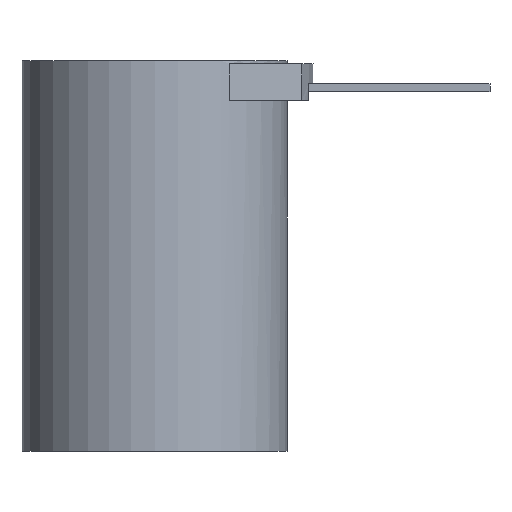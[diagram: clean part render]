
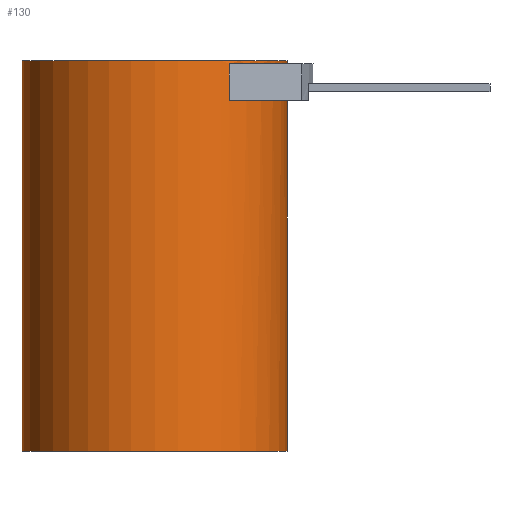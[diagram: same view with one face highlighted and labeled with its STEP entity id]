
A CAD part, front view. The second image highlights one B-rep face of the part: STEP entity #130.
In plain terms, the highlighted cylindrical face has radius 20 mm (diameter 40 mm), a partial arc.
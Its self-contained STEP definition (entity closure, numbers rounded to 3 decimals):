
#113=CYLINDRICAL_SURFACE('',#597,20.);
#130=ADVANCED_FACE('',(#175),#113,.T.);
#175=FACE_OUTER_BOUND('',#198,.T.);
#198=EDGE_LOOP('',(#301,#302,#303,#304,#305,#306,#307,#308,#309,#310));
#224=CIRCLE('',#577,20.);
#225=CIRCLE('',#580,20.);
#230=CIRCLE('',#590,20.);
#233=CIRCLE('',#595,20.);
#234=CIRCLE('',#596,20.);
#301=ORIENTED_EDGE('',*,*,#452,.F.);
#302=ORIENTED_EDGE('',*,*,#457,.F.);
#303=ORIENTED_EDGE('',*,*,#458,.T.);
#304=ORIENTED_EDGE('',*,*,#455,.T.);
#305=ORIENTED_EDGE('',*,*,#459,.F.);
#306=ORIENTED_EDGE('',*,*,#453,.F.);
#307=ORIENTED_EDGE('',*,*,#438,.F.);
#308=ORIENTED_EDGE('',*,*,#435,.F.);
#309=ORIENTED_EDGE('',*,*,#434,.F.);
#310=ORIENTED_EDGE('',*,*,#448,.F.);
#388=VERTEX_POINT('',#794);
#390=VERTEX_POINT('',#798);
#391=VERTEX_POINT('',#802);
#393=VERTEX_POINT('',#808);
#398=VERTEX_POINT('',#825);
#400=VERTEX_POINT('',#833);
#401=VERTEX_POINT('',#837);
#402=VERTEX_POINT('',#839);
#403=VERTEX_POINT('',#841);
#404=VERTEX_POINT('',#843);
#434=EDGE_CURVE('',#390,#388,#224,.T.);
#435=EDGE_CURVE('',#388,#391,#498,.T.);
#438=EDGE_CURVE('',#391,#393,#225,.T.);
#448=EDGE_CURVE('',#398,#390,#508,.T.);
#452=EDGE_CURVE('',#400,#398,#230,.T.);
#453=EDGE_CURVE('',#393,#401,#510,.T.);
#455=EDGE_CURVE('',#403,#402,#511,.T.);
#457=EDGE_CURVE('',#404,#400,#512,.T.);
#458=EDGE_CURVE('',#404,#403,#233,.T.);
#459=EDGE_CURVE('',#401,#402,#234,.T.);
#498=LINE('',#801,#537);
#508=LINE('',#827,#547);
#510=LINE('',#836,#549);
#511=LINE('',#840,#550);
#512=LINE('',#844,#551);
#537=VECTOR('',#647,1.);
#547=VECTOR('',#671,1.);
#549=VECTOR('',#685,1.);
#550=VECTOR('',#688,1.);
#551=VECTOR('',#691,1.);
#577=AXIS2_PLACEMENT_3D('',#799,#643,#644);
#580=AXIS2_PLACEMENT_3D('',#807,#652,#653);
#590=AXIS2_PLACEMENT_3D('',#834,#681,#682);
#595=AXIS2_PLACEMENT_3D('',#846,#694,#695);
#596=AXIS2_PLACEMENT_3D('',#847,#696,#697);
#597=AXIS2_PLACEMENT_3D('',#848,#698,#699);
#643=DIRECTION('',(0.,0.,1.));
#644=DIRECTION('',(-1.,0.,0.));
#647=DIRECTION('',(0.,0.,1.));
#652=DIRECTION('',(0.,0.,1.));
#653=DIRECTION('',(0.565,-0.825,0.));
#671=DIRECTION('',(0.,0.,-1.));
#681=DIRECTION('',(0.,0.,-1.));
#682=DIRECTION('',(-1.,0.,0.));
#685=DIRECTION('',(0.,0.,-1.));
#688=DIRECTION('',(0.,0.,-1.));
#691=DIRECTION('',(0.,0.,-1.));
#694=DIRECTION('',(0.,0.,-1.));
#695=DIRECTION('',(0.,1.,0.));
#696=DIRECTION('',(0.,0.,-1.));
#697=DIRECTION('',(0.,1.,0.));
#698=DIRECTION('',(0.,0.,-1.));
#699=DIRECTION('',(0.,-1.,0.));
#794=CARTESIAN_POINT('',(19.079,-6.,53.));
#798=CARTESIAN_POINT('',(11.305,-16.499,53.));
#799=CARTESIAN_POINT('',(0.,0.,53.));
#801=CARTESIAN_POINT('',(19.079,-6.,52.98));
#802=CARTESIAN_POINT('',(19.079,-6.,55.5));
#807=CARTESIAN_POINT('',(0.,0.,55.5));
#808=CARTESIAN_POINT('',(20.,0.,55.5));
#825=CARTESIAN_POINT('',(11.305,-16.499,58.5));
#827=CARTESIAN_POINT('',(11.305,-16.499,59.02));
#833=CARTESIAN_POINT('',(20.,0.,58.5));
#834=CARTESIAN_POINT('',(0.,0.,58.5));
#836=CARTESIAN_POINT('',(20.,0.,0.));
#837=CARTESIAN_POINT('',(20.,0.,0.));
#839=CARTESIAN_POINT('',(-20.,0.,0.));
#840=CARTESIAN_POINT('',(-20.,0.,0.));
#841=CARTESIAN_POINT('',(-20.,0.,59.));
#843=CARTESIAN_POINT('',(20.,0.,59.));
#844=CARTESIAN_POINT('',(20.,0.,0.));
#846=CARTESIAN_POINT('',(0.,0.,59.));
#847=CARTESIAN_POINT('',(0.,0.,0.));
#848=CARTESIAN_POINT('',(0.,0.,59.));
